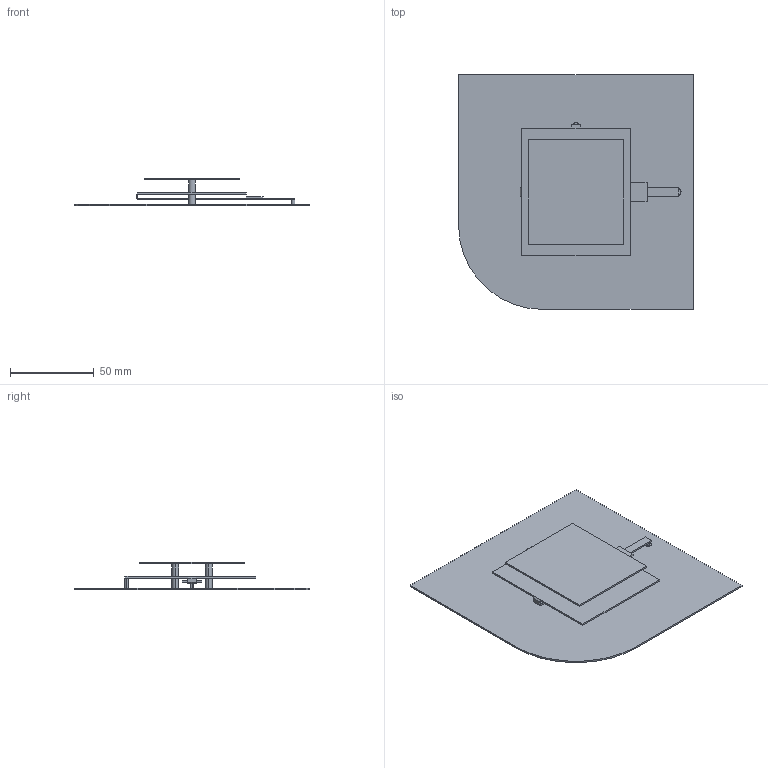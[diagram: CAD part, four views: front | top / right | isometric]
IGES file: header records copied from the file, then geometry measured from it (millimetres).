
Start section: 3D InterOp IGES (Version 21 0 0), Spatial Corp. Copyright (c) 1999-2007.
Global section: file name: ax2000offset_mimo_2x2.iges; native system: Spatial Corp.; preprocessor: 3D InterOp ACIS/IGES; author: Noname; organization: ANSOFT Corporation; date: 20150112.225329; units: millimetre
Bounding box: 140 x 140 x 16.5 mm (x, y, z)
Surface area: 58238 mm2 (no closed solid volume)
Topology: 0 solids, 0 shells, 87 faces, 330 edges, 330 vertices
Faces by surface type: extrusion 70, revolution 17
